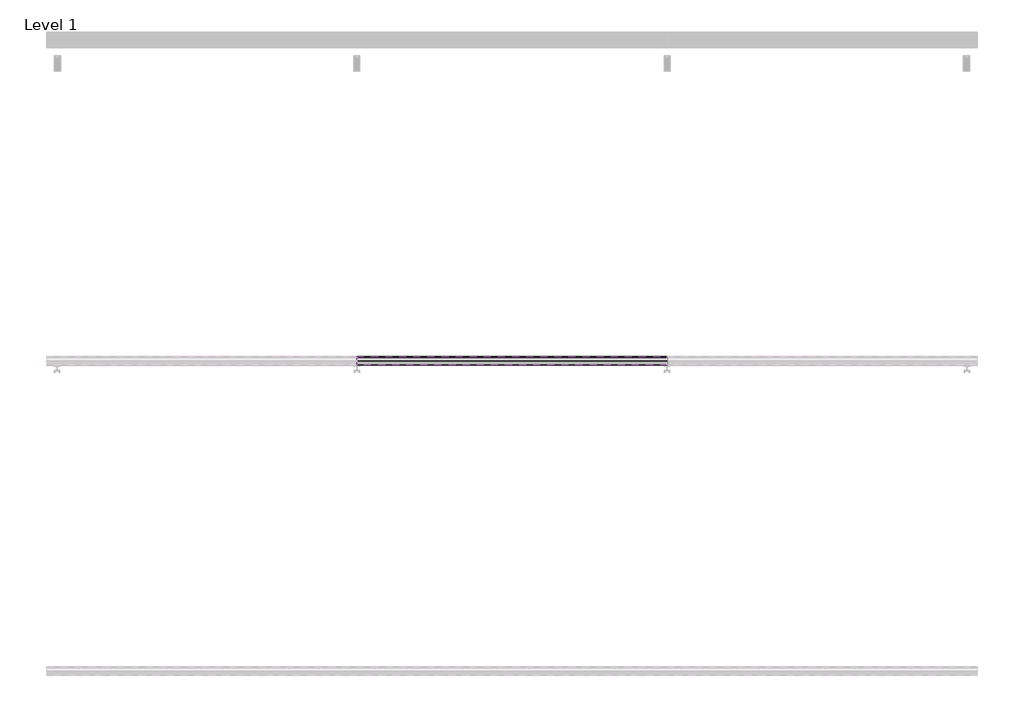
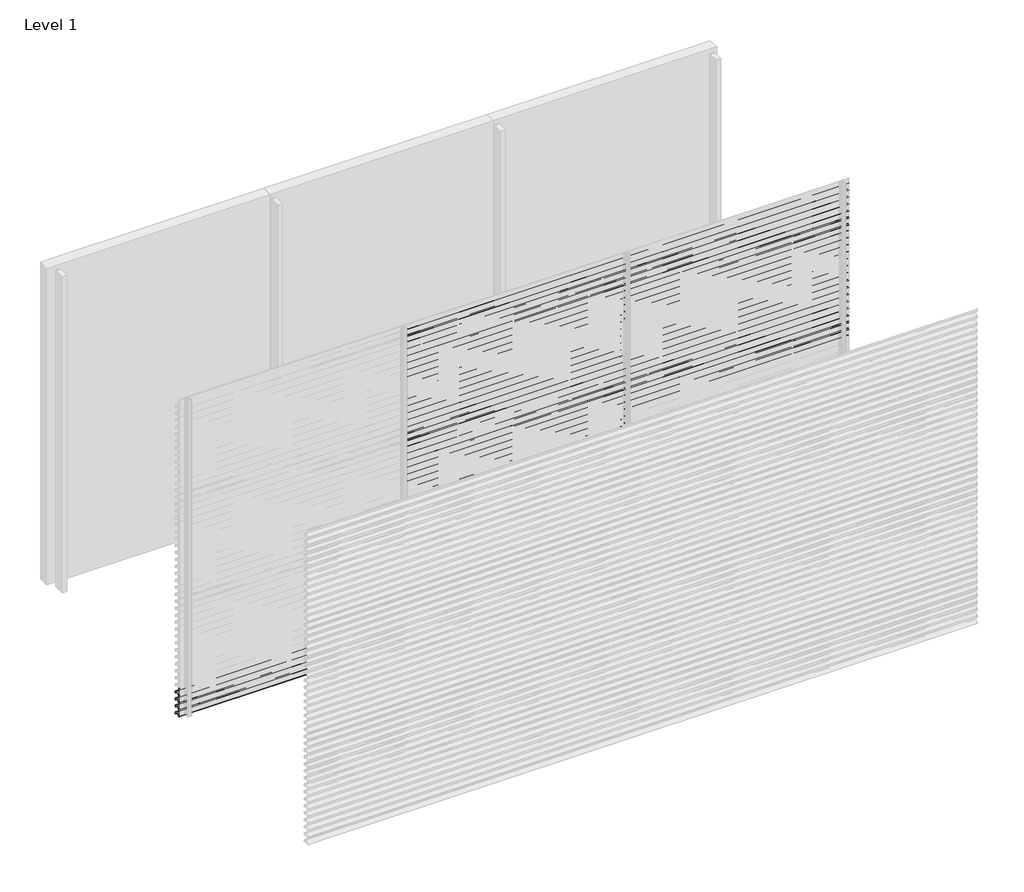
# One storey, part 9 of 27: 71 proxies.
"""IFC4 building model written with IfcOpenShell, lengths in millimetres."""

from ifc_helpers import new_model, si_unit, frame, origin, place, context, project, spatial, polyline, outline, extrude, element, save

model = new_model("IFC4")

# Units and contexts
model_context = context("Model", 3, world=origin())
ifc_project = project(units=[si_unit("LENGTHUNIT", "METRE", prefix="MILLI")], contexts=[model_context])

# Site, building, storey
site = spatial("IfcSite", under=ifc_project)
building = spatial("IfcBuilding", under=site)
storey = spatial("IfcBuildingStorey", under=building, Name="Level 1", Elevation=0.0)

# Proxies
placement = place(None, origin())
element("IfcBuildingElementProxy", 1, Name="Wall Sweeps", at=placement, inside=storey, context=model_context, shape_type="SweptSolid", body=[
    extrude(outline(polyline([(-41943.0, 207.2), (-41943.0, 187.5), (-41944.25, 188.5866084), (-41944.25, 206.4872415), (-41963.0322086, 219.6010889), (-41995.1332975, 187.5), (-41996.0525363, 188.4192388), (-41964.1148087, 220.3569665), (-41998.0, 244.0158044), (-41998.0, 264.0), (-41996.75, 264.0), (-41996.75, 244.7285629), (-41943.0, 207.2)])), frame((0.0, 0.0, 0.0), z_axis=(1.0, 0.0, 0.0), x_axis=(0.0, 1.0, 0.0)), (0.0, 0.0, 1.0), 2000.0),
])
element("IfcBuildingElementProxy", 2, Name="Wall Sweeps", at=placement, inside=storey, context=model_context, shape_type="SweptSolid", body=[
    extrude(outline(polyline([(-41943.0, 141.2), (-41943.0, 121.5), (-41944.25, 122.5866084), (-41944.25, 140.4872415), (-41963.0322086, 153.6010889), (-41995.1332975, 121.5), (-41996.0525363, 122.4192388), (-41964.1148087, 154.3569665), (-41998.0, 178.0158044), (-41998.0, 198.0), (-41996.75, 198.0), (-41996.75, 178.7285629), (-41943.0, 141.2)])), frame((0.0, 0.0, 0.0), z_axis=(1.0, 0.0, 0.0), x_axis=(0.0, 1.0, 0.0)), (0.0, 0.0, 1.0), 2000.0),
])
element("IfcBuildingElementProxy", 3, Name="Wall Sweeps", at=placement, inside=storey, context=model_context, shape_type="SweptSolid", body=[
    extrude(outline(polyline([(-41943.0, 75.2), (-41943.0, 55.5), (-41944.25, 56.5866084), (-41944.25, 74.4872415), (-41963.0322086, 87.6010889), (-41995.1332975, 55.5), (-41996.0525363, 56.4192388), (-41964.1148087, 88.3569665), (-41998.0, 112.0158044), (-41998.0, 132.0), (-41996.75, 132.0), (-41996.75, 112.7285629), (-41943.0, 75.2)])), frame((0.0, 0.0, 0.0), z_axis=(1.0, 0.0, 0.0), x_axis=(0.0, 1.0, 0.0)), (0.0, 0.0, 1.0), 2000.0),
])
element("IfcBuildingElementProxy", 4, Name="Wall Sweeps", at=placement, inside=storey, context=model_context, shape_type="SweptSolid", body=[
    extrude(outline(polyline([(-41943.0, 9.2), (-41943.0, -10.5), (-41944.25, -9.4133916), (-41944.25, 8.4872415), (-41963.0322086, 21.6010889), (-41995.1332975, -10.5), (-41996.0525363, -9.5807612), (-41964.1148087, 22.3569665), (-41998.0, 46.0158044), (-41998.0, 66.0), (-41996.75, 66.0), (-41996.75, 46.7285629), (-41943.0, 9.2)])), frame((0.0, 0.0, 0.0), z_axis=(1.0, 0.0, 0.0), x_axis=(0.0, 1.0, 0.0)), (0.0, 0.0, 1.0), 2000.0),
])
element("IfcBuildingElementProxy", 5, Name="Wall Sweeps", at=placement, inside=storey, context=model_context, shape_type="SweptSolid", body=[
    extrude(outline(polyline([(-41943.0, 2913.2), (-41943.0, 2893.5), (-41944.25, 2894.5866084), (-41944.25, 2912.4872415), (-41963.0322086, 2925.6010889), (-41995.1332975, 2893.5), (-41996.0525363, 2894.4192388), (-41964.1148087, 2926.3569665), (-41998.0, 2950.0158044), (-41998.0, 2970.0), (-41996.75, 2970.0), (-41996.75, 2950.7285629), (-41943.0, 2913.2)])), frame((2000.0, 0.0, 0.0), z_axis=(1.0, 0.0, 0.0), x_axis=(0.0, 1.0, 0.0)), (0.0, 0.0, 1.0), 2000.0),
])
element("IfcBuildingElementProxy", 6, Name="Wall Sweeps", at=placement, inside=storey, context=model_context, shape_type="SweptSolid", body=[
    extrude(outline(polyline([(-41943.0, 2847.2), (-41943.0, 2827.5), (-41944.25, 2828.5866084), (-41944.25, 2846.4872415), (-41963.0322086, 2859.6010889), (-41995.1332975, 2827.5), (-41996.0525363, 2828.4192388), (-41964.1148087, 2860.3569665), (-41998.0, 2884.0158044), (-41998.0, 2904.0), (-41996.75, 2904.0), (-41996.75, 2884.7285629), (-41943.0, 2847.2)])), frame((2000.0, 0.0, 0.0), z_axis=(1.0, 0.0, 0.0), x_axis=(0.0, 1.0, 0.0)), (0.0, 0.0, 1.0), 2000.0),
])
element("IfcBuildingElementProxy", 7, Name="Wall Sweeps", at=placement, inside=storey, context=model_context, shape_type="SweptSolid", body=[
    extrude(outline(polyline([(-41943.0, 2781.2), (-41943.0, 2761.5), (-41944.25, 2762.5866084), (-41944.25, 2780.4872415), (-41963.0322086, 2793.6010889), (-41995.1332975, 2761.5), (-41996.0525363, 2762.4192388), (-41964.1148087, 2794.3569665), (-41998.0, 2818.0158044), (-41998.0, 2838.0), (-41996.75, 2838.0), (-41996.75, 2818.7285629), (-41943.0, 2781.2)])), frame((2000.0, 0.0, 0.0), z_axis=(1.0, 0.0, 0.0), x_axis=(0.0, 1.0, 0.0)), (0.0, 0.0, 1.0), 2000.0),
])
element("IfcBuildingElementProxy", 8, Name="Wall Sweeps", at=placement, inside=storey, context=model_context, shape_type="SweptSolid", body=[
    extrude(outline(polyline([(-41943.0, 2715.2), (-41943.0, 2695.5), (-41944.25, 2696.5866084), (-41944.25, 2714.4872415), (-41963.0322086, 2727.6010889), (-41995.1332975, 2695.5), (-41996.0525363, 2696.4192388), (-41964.1148087, 2728.3569665), (-41998.0, 2752.0158044), (-41998.0, 2772.0), (-41996.75, 2772.0), (-41996.75, 2752.7285629), (-41943.0, 2715.2)])), frame((2000.0, 0.0, 0.0), z_axis=(1.0, 0.0, 0.0), x_axis=(0.0, 1.0, 0.0)), (0.0, 0.0, 1.0), 2000.0),
])
element("IfcBuildingElementProxy", 9, Name="Wall Sweeps", at=placement, inside=storey, context=model_context, shape_type="SweptSolid", body=[
    extrude(outline(polyline([(-41943.0, 2649.2), (-41943.0, 2629.5), (-41944.25, 2630.5866084), (-41944.25, 2648.4872415), (-41963.0322086, 2661.6010889), (-41995.1332975, 2629.5), (-41996.0525363, 2630.4192388), (-41964.1148087, 2662.3569665), (-41998.0, 2686.0158044), (-41998.0, 2706.0), (-41996.75, 2706.0), (-41996.75, 2686.7285629), (-41943.0, 2649.2)])), frame((2000.0, 0.0, 0.0), z_axis=(1.0, 0.0, 0.0), x_axis=(0.0, 1.0, 0.0)), (0.0, 0.0, 1.0), 2000.0),
])
element("IfcBuildingElementProxy", 10, Name="Wall Sweeps", at=placement, inside=storey, context=model_context, shape_type="SweptSolid", body=[
    extrude(outline(polyline([(-41943.0, 2583.2), (-41943.0, 2563.5), (-41944.25, 2564.5866084), (-41944.25, 2582.4872415), (-41963.0322086, 2595.6010889), (-41995.1332975, 2563.5), (-41996.0525363, 2564.4192388), (-41964.1148087, 2596.3569665), (-41998.0, 2620.0158044), (-41998.0, 2640.0), (-41996.75, 2640.0), (-41996.75, 2620.7285629), (-41943.0, 2583.2)])), frame((2000.0, 0.0, 0.0), z_axis=(1.0, 0.0, 0.0), x_axis=(0.0, 1.0, 0.0)), (0.0, 0.0, 1.0), 2000.0),
])
element("IfcBuildingElementProxy", 11, Name="Wall Sweeps", at=placement, inside=storey, context=model_context, shape_type="SweptSolid", body=[
    extrude(outline(polyline([(-41943.0, 2517.2), (-41943.0, 2497.5), (-41944.25, 2498.5866084), (-41944.25, 2516.4872415), (-41963.0322086, 2529.6010889), (-41995.1332975, 2497.5), (-41996.0525363, 2498.4192388), (-41964.1148087, 2530.3569665), (-41998.0, 2554.0158044), (-41998.0, 2574.0), (-41996.75, 2574.0), (-41996.75, 2554.7285629), (-41943.0, 2517.2)])), frame((2000.0, 0.0, 0.0), z_axis=(1.0, 0.0, 0.0), x_axis=(0.0, 1.0, 0.0)), (0.0, 0.0, 1.0), 2000.0),
])
element("IfcBuildingElementProxy", 12, Name="Wall Sweeps", at=placement, inside=storey, context=model_context, shape_type="SweptSolid", body=[
    extrude(outline(polyline([(-41943.0, 2451.2), (-41943.0, 2431.5), (-41944.25, 2432.5866084), (-41944.25, 2450.4872415), (-41963.0322086, 2463.6010889), (-41995.1332975, 2431.5), (-41996.0525363, 2432.4192388), (-41964.1148087, 2464.3569665), (-41998.0, 2488.0158044), (-41998.0, 2508.0), (-41996.75, 2508.0), (-41996.75, 2488.7285629), (-41943.0, 2451.2)])), frame((2000.0, 0.0, 0.0), z_axis=(1.0, 0.0, 0.0), x_axis=(0.0, 1.0, 0.0)), (0.0, 0.0, 1.0), 2000.0),
])
element("IfcBuildingElementProxy", 13, Name="Wall Sweeps", at=placement, inside=storey, context=model_context, shape_type="SweptSolid", body=[
    extrude(outline(polyline([(-41943.0, 2385.2), (-41943.0, 2365.5), (-41944.25, 2366.5866084), (-41944.25, 2384.4872415), (-41963.0322086, 2397.6010889), (-41995.1332975, 2365.5), (-41996.0525363, 2366.4192388), (-41964.1148087, 2398.3569665), (-41998.0, 2422.0158044), (-41998.0, 2442.0), (-41996.75, 2442.0), (-41996.75, 2422.7285629), (-41943.0, 2385.2)])), frame((2000.0, 0.0, 0.0), z_axis=(1.0, 0.0, 0.0), x_axis=(0.0, 1.0, 0.0)), (0.0, 0.0, 1.0), 2000.0),
])
element("IfcBuildingElementProxy", 14, Name="Wall Sweeps", at=placement, inside=storey, context=model_context, shape_type="SweptSolid", body=[
    extrude(outline(polyline([(-41943.0, 2319.2), (-41943.0, 2299.5), (-41944.25, 2300.5866084), (-41944.25, 2318.4872415), (-41963.0322086, 2331.6010889), (-41995.1332975, 2299.5), (-41996.0525363, 2300.4192388), (-41964.1148087, 2332.3569665), (-41998.0, 2356.0158044), (-41998.0, 2376.0), (-41996.75, 2376.0), (-41996.75, 2356.7285629), (-41943.0, 2319.2)])), frame((2000.0, 0.0, 0.0), z_axis=(1.0, 0.0, 0.0), x_axis=(0.0, 1.0, 0.0)), (0.0, 0.0, 1.0), 2000.0),
])
element("IfcBuildingElementProxy", 15, Name="Wall Sweeps", at=placement, inside=storey, context=model_context, shape_type="SweptSolid", body=[
    extrude(outline(polyline([(-41943.0, 2253.2), (-41943.0, 2233.5), (-41944.25, 2234.5866084), (-41944.25, 2252.4872415), (-41963.0322086, 2265.6010889), (-41995.1332975, 2233.5), (-41996.0525363, 2234.4192388), (-41964.1148087, 2266.3569665), (-41998.0, 2290.0158044), (-41998.0, 2310.0), (-41996.75, 2310.0), (-41996.75, 2290.7285629), (-41943.0, 2253.2)])), frame((2000.0, 0.0, 0.0), z_axis=(1.0, 0.0, 0.0), x_axis=(0.0, 1.0, 0.0)), (0.0, 0.0, 1.0), 2000.0),
])
element("IfcBuildingElementProxy", 16, Name="Wall Sweeps", at=placement, inside=storey, context=model_context, shape_type="SweptSolid", body=[
    extrude(outline(polyline([(-41943.0, 2187.2), (-41943.0, 2167.5), (-41944.25, 2168.5866084), (-41944.25, 2186.4872415), (-41963.0322086, 2199.6010889), (-41995.1332975, 2167.5), (-41996.0525363, 2168.4192388), (-41964.1148087, 2200.3569665), (-41998.0, 2224.0158044), (-41998.0, 2244.0), (-41996.75, 2244.0), (-41996.75, 2224.7285629), (-41943.0, 2187.2)])), frame((2000.0, 0.0, 0.0), z_axis=(1.0, 0.0, 0.0), x_axis=(0.0, 1.0, 0.0)), (0.0, 0.0, 1.0), 2000.0),
])
element("IfcBuildingElementProxy", 17, Name="Wall Sweeps", at=placement, inside=storey, context=model_context, shape_type="SweptSolid", body=[
    extrude(outline(polyline([(-41943.0, 2121.2), (-41943.0, 2101.5), (-41944.25, 2102.5866084), (-41944.25, 2120.4872415), (-41963.0322086, 2133.6010889), (-41995.1332975, 2101.5), (-41996.0525363, 2102.4192388), (-41964.1148087, 2134.3569665), (-41998.0, 2158.0158044), (-41998.0, 2178.0), (-41996.75, 2178.0), (-41996.75, 2158.7285629), (-41943.0, 2121.2)])), frame((2000.0, 0.0, 0.0), z_axis=(1.0, 0.0, 0.0), x_axis=(0.0, 1.0, 0.0)), (0.0, 0.0, 1.0), 2000.0),
])
element("IfcBuildingElementProxy", 18, Name="Wall Sweeps", at=placement, inside=storey, context=model_context, shape_type="SweptSolid", body=[
    extrude(outline(polyline([(-41943.0, 2055.2), (-41943.0, 2035.5), (-41944.25, 2036.5866084), (-41944.25, 2054.4872415), (-41963.0322086, 2067.6010889), (-41995.1332975, 2035.5), (-41996.0525363, 2036.4192388), (-41964.1148087, 2068.3569665), (-41998.0, 2092.0158044), (-41998.0, 2112.0), (-41996.75, 2112.0), (-41996.75, 2092.7285629), (-41943.0, 2055.2)])), frame((2000.0, 0.0, 0.0), z_axis=(1.0, 0.0, 0.0), x_axis=(0.0, 1.0, 0.0)), (0.0, 0.0, 1.0), 2000.0),
])
element("IfcBuildingElementProxy", 19, Name="Wall Sweeps", at=placement, inside=storey, context=model_context, shape_type="SweptSolid", body=[
    extrude(outline(polyline([(-41943.0, 1989.2), (-41943.0, 1969.5), (-41944.25, 1970.5866084), (-41944.25, 1988.4872415), (-41963.0322086, 2001.6010889), (-41995.1332975, 1969.5), (-41996.0525363, 1970.4192388), (-41964.1148087, 2002.3569665), (-41998.0, 2026.0158044), (-41998.0, 2046.0), (-41996.75, 2046.0), (-41996.75, 2026.7285629), (-41943.0, 1989.2)])), frame((2000.0, 0.0, 0.0), z_axis=(1.0, 0.0, 0.0), x_axis=(0.0, 1.0, 0.0)), (0.0, 0.0, 1.0), 2000.0),
])
element("IfcBuildingElementProxy", 20, Name="Wall Sweeps", at=placement, inside=storey, context=model_context, shape_type="SweptSolid", body=[
    extrude(outline(polyline([(-41943.0, 1923.2), (-41943.0, 1903.5), (-41944.25, 1904.5866084), (-41944.25, 1922.4872415), (-41963.0322086, 1935.6010889), (-41995.1332975, 1903.5), (-41996.0525363, 1904.4192388), (-41964.1148087, 1936.3569665), (-41998.0, 1960.0158044), (-41998.0, 1980.0), (-41996.75, 1980.0), (-41996.75, 1960.7285629), (-41943.0, 1923.2)])), frame((2000.0, 0.0, 0.0), z_axis=(1.0, 0.0, 0.0), x_axis=(0.0, 1.0, 0.0)), (0.0, 0.0, 1.0), 2000.0),
])
element("IfcBuildingElementProxy", 21, Name="Wall Sweeps", at=placement, inside=storey, context=model_context, shape_type="SweptSolid", body=[
    extrude(outline(polyline([(-41943.0, 1857.2), (-41943.0, 1837.5), (-41944.25, 1838.5866084), (-41944.25, 1856.4872415), (-41963.0322086, 1869.6010889), (-41995.1332975, 1837.5), (-41996.0525363, 1838.4192388), (-41964.1148087, 1870.3569665), (-41998.0, 1894.0158044), (-41998.0, 1914.0), (-41996.75, 1914.0), (-41996.75, 1894.7285629), (-41943.0, 1857.2)])), frame((2000.0, 0.0, 0.0), z_axis=(1.0, 0.0, 0.0), x_axis=(0.0, 1.0, 0.0)), (0.0, 0.0, 1.0), 2000.0),
])
element("IfcBuildingElementProxy", 22, Name="Wall Sweeps", at=placement, inside=storey, context=model_context, shape_type="SweptSolid", body=[
    extrude(outline(polyline([(-41943.0, 1791.2), (-41943.0, 1771.5), (-41944.25, 1772.5866084), (-41944.25, 1790.4872415), (-41963.0322086, 1803.6010889), (-41995.1332975, 1771.5), (-41996.0525363, 1772.4192388), (-41964.1148087, 1804.3569665), (-41998.0, 1828.0158044), (-41998.0, 1848.0), (-41996.75, 1848.0), (-41996.75, 1828.7285629), (-41943.0, 1791.2)])), frame((2000.0, 0.0, 0.0), z_axis=(1.0, 0.0, 0.0), x_axis=(0.0, 1.0, 0.0)), (0.0, 0.0, 1.0), 2000.0),
])
element("IfcBuildingElementProxy", 23, Name="Wall Sweeps", at=placement, inside=storey, context=model_context, shape_type="SweptSolid", body=[
    extrude(outline(polyline([(-41943.0, 1725.2), (-41943.0, 1705.5), (-41944.25, 1706.5866084), (-41944.25, 1724.4872415), (-41963.0322086, 1737.6010889), (-41995.1332975, 1705.5), (-41996.0525363, 1706.4192388), (-41964.1148087, 1738.3569665), (-41998.0, 1762.0158044), (-41998.0, 1782.0), (-41996.75, 1782.0), (-41996.75, 1762.7285629), (-41943.0, 1725.2)])), frame((2000.0, 0.0, 0.0), z_axis=(1.0, 0.0, 0.0), x_axis=(0.0, 1.0, 0.0)), (0.0, 0.0, 1.0), 2000.0),
])
element("IfcBuildingElementProxy", 24, Name="Wall Sweeps", at=placement, inside=storey, context=model_context, shape_type="SweptSolid", body=[
    extrude(outline(polyline([(-41943.0, 1659.2), (-41943.0, 1639.5), (-41944.25, 1640.5866084), (-41944.25, 1658.4872415), (-41963.0322086, 1671.6010889), (-41995.1332975, 1639.5), (-41996.0525363, 1640.4192388), (-41964.1148087, 1672.3569665), (-41998.0, 1696.0158044), (-41998.0, 1716.0), (-41996.75, 1716.0), (-41996.75, 1696.7285629), (-41943.0, 1659.2)])), frame((2000.0, 0.0, 0.0), z_axis=(1.0, 0.0, 0.0), x_axis=(0.0, 1.0, 0.0)), (0.0, 0.0, 1.0), 2000.0),
])
element("IfcBuildingElementProxy", 25, Name="Wall Sweeps", at=placement, inside=storey, context=model_context, shape_type="SweptSolid", body=[
    extrude(outline(polyline([(-41943.0, 1593.2), (-41943.0, 1573.5), (-41944.25, 1574.5866084), (-41944.25, 1592.4872415), (-41963.0322086, 1605.6010889), (-41995.1332975, 1573.5), (-41996.0525363, 1574.4192388), (-41964.1148087, 1606.3569665), (-41998.0, 1630.0158044), (-41998.0, 1650.0), (-41996.75, 1650.0), (-41996.75, 1630.7285629), (-41943.0, 1593.2)])), frame((2000.0, 0.0, 0.0), z_axis=(1.0, 0.0, 0.0), x_axis=(0.0, 1.0, 0.0)), (0.0, 0.0, 1.0), 2000.0),
])
element("IfcBuildingElementProxy", 26, Name="Wall Sweeps", at=placement, inside=storey, context=model_context, shape_type="SweptSolid", body=[
    extrude(outline(polyline([(-41943.0, 1527.2), (-41943.0, 1507.5), (-41944.25, 1508.5866084), (-41944.25, 1526.4872415), (-41963.0322086, 1539.6010889), (-41995.1332975, 1507.5), (-41996.0525363, 1508.4192388), (-41964.1148087, 1540.3569665), (-41998.0, 1564.0158044), (-41998.0, 1584.0), (-41996.75, 1584.0), (-41996.75, 1564.7285629), (-41943.0, 1527.2)])), frame((2000.0, 0.0, 0.0), z_axis=(1.0, 0.0, 0.0), x_axis=(0.0, 1.0, 0.0)), (0.0, 0.0, 1.0), 2000.0),
])
element("IfcBuildingElementProxy", 27, Name="Wall Sweeps", at=placement, inside=storey, context=model_context, shape_type="SweptSolid", body=[
    extrude(outline(polyline([(-41943.0, 1461.2), (-41943.0, 1441.5), (-41944.25, 1442.5866084), (-41944.25, 1460.4872415), (-41963.0322086, 1473.6010889), (-41995.1332975, 1441.5), (-41996.0525363, 1442.4192388), (-41964.1148087, 1474.3569665), (-41998.0, 1498.0158044), (-41998.0, 1518.0), (-41996.75, 1518.0), (-41996.75, 1498.7285629), (-41943.0, 1461.2)])), frame((2000.0, 0.0, 0.0), z_axis=(1.0, 0.0, 0.0), x_axis=(0.0, 1.0, 0.0)), (0.0, 0.0, 1.0), 2000.0),
])
element("IfcBuildingElementProxy", 28, Name="Wall Sweeps", at=placement, inside=storey, context=model_context, shape_type="SweptSolid", body=[
    extrude(outline(polyline([(-41943.0, 1395.2), (-41943.0, 1375.5), (-41944.25, 1376.5866084), (-41944.25, 1394.4872415), (-41963.0322086, 1407.6010889), (-41995.1332975, 1375.5), (-41996.0525363, 1376.4192388), (-41964.1148087, 1408.3569665), (-41998.0, 1432.0158044), (-41998.0, 1452.0), (-41996.75, 1452.0), (-41996.75, 1432.7285629), (-41943.0, 1395.2)])), frame((2000.0, 0.0, 0.0), z_axis=(1.0, 0.0, 0.0), x_axis=(0.0, 1.0, 0.0)), (0.0, 0.0, 1.0), 2000.0),
])
element("IfcBuildingElementProxy", 29, Name="Wall Sweeps", at=placement, inside=storey, context=model_context, shape_type="SweptSolid", body=[
    extrude(outline(polyline([(-41943.0, 1329.2), (-41943.0, 1309.5), (-41944.25, 1310.5866084), (-41944.25, 1328.4872415), (-41963.0322086, 1341.6010889), (-41995.1332975, 1309.5), (-41996.0525363, 1310.4192388), (-41964.1148087, 1342.3569665), (-41998.0, 1366.0158044), (-41998.0, 1386.0), (-41996.75, 1386.0), (-41996.75, 1366.7285629), (-41943.0, 1329.2)])), frame((2000.0, 0.0, 0.0), z_axis=(1.0, 0.0, 0.0), x_axis=(0.0, 1.0, 0.0)), (0.0, 0.0, 1.0), 2000.0),
])
element("IfcBuildingElementProxy", 30, Name="Wall Sweeps", at=placement, inside=storey, context=model_context, shape_type="SweptSolid", body=[
    extrude(outline(polyline([(-41943.0, 1263.2), (-41943.0, 1243.5), (-41944.25, 1244.5866084), (-41944.25, 1262.4872415), (-41963.0322086, 1275.6010889), (-41995.1332975, 1243.5), (-41996.0525363, 1244.4192388), (-41964.1148087, 1276.3569665), (-41998.0, 1300.0158044), (-41998.0, 1320.0), (-41996.75, 1320.0), (-41996.75, 1300.7285629), (-41943.0, 1263.2)])), frame((2000.0, 0.0, 0.0), z_axis=(1.0, 0.0, 0.0), x_axis=(0.0, 1.0, 0.0)), (0.0, 0.0, 1.0), 2000.0),
])
element("IfcBuildingElementProxy", 31, Name="Wall Sweeps", at=placement, inside=storey, context=model_context, shape_type="SweptSolid", body=[
    extrude(outline(polyline([(-41943.0, 1197.2), (-41943.0, 1177.5), (-41944.25, 1178.5866084), (-41944.25, 1196.4872415), (-41963.0322086, 1209.6010889), (-41995.1332975, 1177.5), (-41996.0525363, 1178.4192388), (-41964.1148087, 1210.3569665), (-41998.0, 1234.0158044), (-41998.0, 1254.0), (-41996.75, 1254.0), (-41996.75, 1234.7285629), (-41943.0, 1197.2)])), frame((2000.0, 0.0, 0.0), z_axis=(1.0, 0.0, 0.0), x_axis=(0.0, 1.0, 0.0)), (0.0, 0.0, 1.0), 2000.0),
])
element("IfcBuildingElementProxy", 32, Name="Wall Sweeps", at=placement, inside=storey, context=model_context, shape_type="SweptSolid", body=[
    extrude(outline(polyline([(-41943.0, 1131.2), (-41943.0, 1111.5), (-41944.25, 1112.5866084), (-41944.25, 1130.4872415), (-41963.0322086, 1143.6010889), (-41995.1332975, 1111.5), (-41996.0525363, 1112.4192388), (-41964.1148087, 1144.3569665), (-41998.0, 1168.0158044), (-41998.0, 1188.0), (-41996.75, 1188.0), (-41996.75, 1168.7285629), (-41943.0, 1131.2)])), frame((2000.0, 0.0, 0.0), z_axis=(1.0, 0.0, 0.0), x_axis=(0.0, 1.0, 0.0)), (0.0, 0.0, 1.0), 2000.0),
])
element("IfcBuildingElementProxy", 33, Name="Wall Sweeps", at=placement, inside=storey, context=model_context, shape_type="SweptSolid", body=[
    extrude(outline(polyline([(-41943.0, 1065.2), (-41943.0, 1045.5), (-41944.25, 1046.5866084), (-41944.25, 1064.4872415), (-41963.0322086, 1077.6010889), (-41995.1332975, 1045.5), (-41996.0525363, 1046.4192388), (-41964.1148087, 1078.3569665), (-41998.0, 1102.0158044), (-41998.0, 1122.0), (-41996.75, 1122.0), (-41996.75, 1102.7285629), (-41943.0, 1065.2)])), frame((2000.0, 0.0, 0.0), z_axis=(1.0, 0.0, 0.0), x_axis=(0.0, 1.0, 0.0)), (0.0, 0.0, 1.0), 2000.0),
])
element("IfcBuildingElementProxy", 34, Name="Wall Sweeps", at=placement, inside=storey, context=model_context, shape_type="SweptSolid", body=[
    extrude(outline(polyline([(-41943.0, 999.2), (-41943.0, 979.5), (-41944.25, 980.5866084), (-41944.25, 998.4872415), (-41963.0322086, 1011.6010889), (-41995.1332975, 979.5), (-41996.0525363, 980.4192388), (-41964.1148087, 1012.3569665), (-41998.0, 1036.0158044), (-41998.0, 1056.0), (-41996.75, 1056.0), (-41996.75, 1036.7285629), (-41943.0, 999.2)])), frame((2000.0, 0.0, 0.0), z_axis=(1.0, 0.0, 0.0), x_axis=(0.0, 1.0, 0.0)), (0.0, 0.0, 1.0), 2000.0),
])
element("IfcBuildingElementProxy", 35, Name="Wall Sweeps", at=placement, inside=storey, context=model_context, shape_type="SweptSolid", body=[
    extrude(outline(polyline([(-41943.0, 933.2), (-41943.0, 913.5), (-41944.25, 914.5866084), (-41944.25, 932.4872415), (-41963.0322086, 945.6010889), (-41995.1332975, 913.5), (-41996.0525363, 914.4192388), (-41964.1148087, 946.3569665), (-41998.0, 970.0158044), (-41998.0, 990.0), (-41996.75, 990.0), (-41996.75, 970.7285629), (-41943.0, 933.2)])), frame((2000.0, 0.0, 0.0), z_axis=(1.0, 0.0, 0.0), x_axis=(0.0, 1.0, 0.0)), (0.0, 0.0, 1.0), 2000.0),
])
element("IfcBuildingElementProxy", 36, Name="Wall Sweeps", at=placement, inside=storey, context=model_context, shape_type="SweptSolid", body=[
    extrude(outline(polyline([(-41943.0, 867.2), (-41943.0, 847.5), (-41944.25, 848.5866084), (-41944.25, 866.4872415), (-41963.0322086, 879.6010889), (-41995.1332975, 847.5), (-41996.0525363, 848.4192388), (-41964.1148087, 880.3569665), (-41998.0, 904.0158044), (-41998.0, 924.0), (-41996.75, 924.0), (-41996.75, 904.7285629), (-41943.0, 867.2)])), frame((2000.0, 0.0, 0.0), z_axis=(1.0, 0.0, 0.0), x_axis=(0.0, 1.0, 0.0)), (0.0, 0.0, 1.0), 2000.0),
])
element("IfcBuildingElementProxy", 37, Name="Wall Sweeps", at=placement, inside=storey, context=model_context, shape_type="SweptSolid", body=[
    extrude(outline(polyline([(-41943.0, 801.2), (-41943.0, 781.5), (-41944.25, 782.5866084), (-41944.25, 800.4872415), (-41963.0322086, 813.6010889), (-41995.1332975, 781.5), (-41996.0525363, 782.4192388), (-41964.1148087, 814.3569665), (-41998.0, 838.0158044), (-41998.0, 858.0), (-41996.75, 858.0), (-41996.75, 838.7285629), (-41943.0, 801.2)])), frame((2000.0, 0.0, 0.0), z_axis=(1.0, 0.0, 0.0), x_axis=(0.0, 1.0, 0.0)), (0.0, 0.0, 1.0), 2000.0),
])
element("IfcBuildingElementProxy", 38, Name="Wall Sweeps", at=placement, inside=storey, context=model_context, shape_type="SweptSolid", body=[
    extrude(outline(polyline([(-41943.0, 735.2), (-41943.0, 715.5), (-41944.25, 716.5866084), (-41944.25, 734.4872415), (-41963.0322086, 747.6010889), (-41995.1332975, 715.5), (-41996.0525363, 716.4192388), (-41964.1148087, 748.3569665), (-41998.0, 772.0158044), (-41998.0, 792.0), (-41996.75, 792.0), (-41996.75, 772.7285629), (-41943.0, 735.2)])), frame((2000.0, 0.0, 0.0), z_axis=(1.0, 0.0, 0.0), x_axis=(0.0, 1.0, 0.0)), (0.0, 0.0, 1.0), 2000.0),
])
element("IfcBuildingElementProxy", 39, Name="Wall Sweeps", at=placement, inside=storey, context=model_context, shape_type="SweptSolid", body=[
    extrude(outline(polyline([(-41943.0, 669.2), (-41943.0, 649.5), (-41944.25, 650.5866084), (-41944.25, 668.4872415), (-41963.0322086, 681.6010889), (-41995.1332975, 649.5), (-41996.0525363, 650.4192388), (-41964.1148087, 682.3569665), (-41998.0, 706.0158044), (-41998.0, 726.0), (-41996.75, 726.0), (-41996.75, 706.7285629), (-41943.0, 669.2)])), frame((2000.0, 0.0, 0.0), z_axis=(1.0, 0.0, 0.0), x_axis=(0.0, 1.0, 0.0)), (0.0, 0.0, 1.0), 2000.0),
])
element("IfcBuildingElementProxy", 40, Name="Wall Sweeps", at=placement, inside=storey, context=model_context, shape_type="SweptSolid", body=[
    extrude(outline(polyline([(-41943.0, 603.2), (-41943.0, 583.5), (-41944.25, 584.5866084), (-41944.25, 602.4872415), (-41963.0322086, 615.6010889), (-41995.1332975, 583.5), (-41996.0525363, 584.4192388), (-41964.1148087, 616.3569665), (-41998.0, 640.0158044), (-41998.0, 660.0), (-41996.75, 660.0), (-41996.75, 640.7285629), (-41943.0, 603.2)])), frame((2000.0, 0.0, 0.0), z_axis=(1.0, 0.0, 0.0), x_axis=(0.0, 1.0, 0.0)), (0.0, 0.0, 1.0), 2000.0),
])
element("IfcBuildingElementProxy", 41, Name="Wall Sweeps", at=placement, inside=storey, context=model_context, shape_type="SweptSolid", body=[
    extrude(outline(polyline([(-41943.0, 537.2), (-41943.0, 517.5), (-41944.25, 518.5866084), (-41944.25, 536.4872415), (-41963.0322086, 549.6010889), (-41995.1332975, 517.5), (-41996.0525363, 518.4192388), (-41964.1148087, 550.3569665), (-41998.0, 574.0158044), (-41998.0, 594.0), (-41996.75, 594.0), (-41996.75, 574.7285629), (-41943.0, 537.2)])), frame((2000.0, 0.0, 0.0), z_axis=(1.0, 0.0, 0.0), x_axis=(0.0, 1.0, 0.0)), (0.0, 0.0, 1.0), 2000.0),
])
element("IfcBuildingElementProxy", 42, Name="Wall Sweeps", at=placement, inside=storey, context=model_context, shape_type="SweptSolid", body=[
    extrude(outline(polyline([(-41943.0, 471.2), (-41943.0, 451.5), (-41944.25, 452.5866084), (-41944.25, 470.4872415), (-41963.0322086, 483.6010889), (-41995.1332975, 451.5), (-41996.0525363, 452.4192388), (-41964.1148087, 484.3569665), (-41998.0, 508.0158044), (-41998.0, 528.0), (-41996.75, 528.0), (-41996.75, 508.7285629), (-41943.0, 471.2)])), frame((2000.0, 0.0, 0.0), z_axis=(1.0, 0.0, 0.0), x_axis=(0.0, 1.0, 0.0)), (0.0, 0.0, 1.0), 2000.0),
])
element("IfcBuildingElementProxy", 43, Name="Wall Sweeps", at=placement, inside=storey, context=model_context, shape_type="SweptSolid", body=[
    extrude(outline(polyline([(-41943.0, 405.2), (-41943.0, 385.5), (-41944.25, 386.5866084), (-41944.25, 404.4872415), (-41963.0322086, 417.6010889), (-41995.1332975, 385.5), (-41996.0525363, 386.4192388), (-41964.1148087, 418.3569665), (-41998.0, 442.0158044), (-41998.0, 462.0), (-41996.75, 462.0), (-41996.75, 442.7285629), (-41943.0, 405.2)])), frame((2000.0, 0.0, 0.0), z_axis=(1.0, 0.0, 0.0), x_axis=(0.0, 1.0, 0.0)), (0.0, 0.0, 1.0), 2000.0),
])
element("IfcBuildingElementProxy", 44, Name="Wall Sweeps", at=placement, inside=storey, context=model_context, shape_type="SweptSolid", body=[
    extrude(outline(polyline([(-41943.0, 339.2), (-41943.0, 319.5), (-41944.25, 320.5866084), (-41944.25, 338.4872415), (-41963.0322086, 351.6010889), (-41995.1332975, 319.5), (-41996.0525363, 320.4192388), (-41964.1148087, 352.3569665), (-41998.0, 376.0158044), (-41998.0, 396.0), (-41996.75, 396.0), (-41996.75, 376.7285629), (-41943.0, 339.2)])), frame((2000.0, 0.0, 0.0), z_axis=(1.0, 0.0, 0.0), x_axis=(0.0, 1.0, 0.0)), (0.0, 0.0, 1.0), 2000.0),
])
element("IfcBuildingElementProxy", 45, Name="Wall Sweeps", at=placement, inside=storey, context=model_context, shape_type="SweptSolid", body=[
    extrude(outline(polyline([(-41943.0, 273.2), (-41943.0, 253.5), (-41944.25, 254.5866084), (-41944.25, 272.4872415), (-41963.0322086, 285.6010889), (-41995.1332975, 253.5), (-41996.0525363, 254.4192388), (-41964.1148087, 286.3569665), (-41998.0, 310.0158044), (-41998.0, 330.0), (-41996.75, 330.0), (-41996.75, 310.7285629), (-41943.0, 273.2)])), frame((2000.0, 0.0, 0.0), z_axis=(1.0, 0.0, 0.0), x_axis=(0.0, 1.0, 0.0)), (0.0, 0.0, 1.0), 2000.0),
])
element("IfcBuildingElementProxy", 46, Name="Wall Sweeps", at=placement, inside=storey, context=model_context, shape_type="SweptSolid", body=[
    extrude(outline(polyline([(-41943.0, 207.2), (-41943.0, 187.5), (-41944.25, 188.5866084), (-41944.25, 206.4872415), (-41963.0322086, 219.6010889), (-41995.1332975, 187.5), (-41996.0525363, 188.4192388), (-41964.1148087, 220.3569665), (-41998.0, 244.0158044), (-41998.0, 264.0), (-41996.75, 264.0), (-41996.75, 244.7285629), (-41943.0, 207.2)])), frame((2000.0, 0.0, 0.0), z_axis=(1.0, 0.0, 0.0), x_axis=(0.0, 1.0, 0.0)), (0.0, 0.0, 1.0), 2000.0),
])
element("IfcBuildingElementProxy", 47, Name="Wall Sweeps", at=placement, inside=storey, context=model_context, shape_type="SweptSolid", body=[
    extrude(outline(polyline([(-41943.0, 141.2), (-41943.0, 121.5), (-41944.25, 122.5866084), (-41944.25, 140.4872415), (-41963.0322086, 153.6010889), (-41995.1332975, 121.5), (-41996.0525363, 122.4192388), (-41964.1148087, 154.3569665), (-41998.0, 178.0158044), (-41998.0, 198.0), (-41996.75, 198.0), (-41996.75, 178.7285629), (-41943.0, 141.2)])), frame((2000.0, 0.0, 0.0), z_axis=(1.0, 0.0, 0.0), x_axis=(0.0, 1.0, 0.0)), (0.0, 0.0, 1.0), 2000.0),
])
element("IfcBuildingElementProxy", 48, Name="Wall Sweeps", at=placement, inside=storey, context=model_context, shape_type="SweptSolid", body=[
    extrude(outline(polyline([(-41943.0, 75.2), (-41943.0, 55.5), (-41944.25, 56.5866084), (-41944.25, 74.4872415), (-41963.0322086, 87.6010889), (-41995.1332975, 55.5), (-41996.0525363, 56.4192388), (-41964.1148087, 88.3569665), (-41998.0, 112.0158044), (-41998.0, 132.0), (-41996.75, 132.0), (-41996.75, 112.7285629), (-41943.0, 75.2)])), frame((2000.0, 0.0, 0.0), z_axis=(1.0, 0.0, 0.0), x_axis=(0.0, 1.0, 0.0)), (0.0, 0.0, 1.0), 2000.0),
])
element("IfcBuildingElementProxy", 49, Name="Wall Sweeps", at=placement, inside=storey, context=model_context, shape_type="SweptSolid", body=[
    extrude(outline(polyline([(-41943.0, 9.2), (-41943.0, -10.5), (-41944.25, -9.4133916), (-41944.25, 8.4872415), (-41963.0322086, 21.6010889), (-41995.1332975, -10.5), (-41996.0525363, -9.5807612), (-41964.1148087, 22.3569665), (-41998.0, 46.0158044), (-41998.0, 66.0), (-41996.75, 66.0), (-41996.75, 46.7285629), (-41943.0, 9.2)])), frame((2000.0, 0.0, 0.0), z_axis=(1.0, 0.0, 0.0), x_axis=(0.0, 1.0, 0.0)), (0.0, 0.0, 1.0), 2000.0),
])
element("IfcBuildingElementProxy", 50, Name="Wall Sweeps", at=placement, inside=storey, context=model_context, shape_type="SweptSolid", body=[
    extrude(outline(polyline([(-41943.0, 2913.2), (-41943.0, 2893.5), (-41944.25, 2894.5866084), (-41944.25, 2912.4872415), (-41963.0322086, 2925.6010889), (-41995.1332975, 2893.5), (-41996.0525363, 2894.4192388), (-41964.1148087, 2926.3569665), (-41998.0, 2950.0158044), (-41998.0, 2970.0), (-41996.75, 2970.0), (-41996.75, 2950.7285629), (-41943.0, 2913.2)])), frame((4000.0, 0.0, 0.0), z_axis=(1.0, 0.0, 0.0), x_axis=(0.0, 1.0, 0.0)), (0.0, 0.0, 1.0), 2000.0),
])
element("IfcBuildingElementProxy", 51, Name="Wall Sweeps", at=placement, inside=storey, context=model_context, shape_type="SweptSolid", body=[
    extrude(outline(polyline([(-41943.0, 2847.2), (-41943.0, 2827.5), (-41944.25, 2828.5866084), (-41944.25, 2846.4872415), (-41963.0322086, 2859.6010889), (-41995.1332975, 2827.5), (-41996.0525363, 2828.4192388), (-41964.1148087, 2860.3569665), (-41998.0, 2884.0158044), (-41998.0, 2904.0), (-41996.75, 2904.0), (-41996.75, 2884.7285629), (-41943.0, 2847.2)])), frame((4000.0, 0.0, 0.0), z_axis=(1.0, 0.0, 0.0), x_axis=(0.0, 1.0, 0.0)), (0.0, 0.0, 1.0), 2000.0),
])
element("IfcBuildingElementProxy", 52, Name="Wall Sweeps", at=placement, inside=storey, context=model_context, shape_type="SweptSolid", body=[
    extrude(outline(polyline([(-41943.0, 2781.2), (-41943.0, 2761.5), (-41944.25, 2762.5866084), (-41944.25, 2780.4872415), (-41963.0322086, 2793.6010889), (-41995.1332975, 2761.5), (-41996.0525363, 2762.4192388), (-41964.1148087, 2794.3569665), (-41998.0, 2818.0158044), (-41998.0, 2838.0), (-41996.75, 2838.0), (-41996.75, 2818.7285629), (-41943.0, 2781.2)])), frame((4000.0, 0.0, 0.0), z_axis=(1.0, 0.0, 0.0), x_axis=(0.0, 1.0, 0.0)), (0.0, 0.0, 1.0), 2000.0),
])
element("IfcBuildingElementProxy", 53, Name="Wall Sweeps", at=placement, inside=storey, context=model_context, shape_type="SweptSolid", body=[
    extrude(outline(polyline([(-41943.0, 2715.2), (-41943.0, 2695.5), (-41944.25, 2696.5866084), (-41944.25, 2714.4872415), (-41963.0322086, 2727.6010889), (-41995.1332975, 2695.5), (-41996.0525363, 2696.4192388), (-41964.1148087, 2728.3569665), (-41998.0, 2752.0158044), (-41998.0, 2772.0), (-41996.75, 2772.0), (-41996.75, 2752.7285629), (-41943.0, 2715.2)])), frame((4000.0, 0.0, 0.0), z_axis=(1.0, 0.0, 0.0), x_axis=(0.0, 1.0, 0.0)), (0.0, 0.0, 1.0), 2000.0),
])
element("IfcBuildingElementProxy", 54, Name="Wall Sweeps", at=placement, inside=storey, context=model_context, shape_type="SweptSolid", body=[
    extrude(outline(polyline([(-41943.0, 2649.2), (-41943.0, 2629.5), (-41944.25, 2630.5866084), (-41944.25, 2648.4872415), (-41963.0322086, 2661.6010889), (-41995.1332975, 2629.5), (-41996.0525363, 2630.4192388), (-41964.1148087, 2662.3569665), (-41998.0, 2686.0158044), (-41998.0, 2706.0), (-41996.75, 2706.0), (-41996.75, 2686.7285629), (-41943.0, 2649.2)])), frame((4000.0, 0.0, 0.0), z_axis=(1.0, 0.0, 0.0), x_axis=(0.0, 1.0, 0.0)), (0.0, 0.0, 1.0), 2000.0),
])
element("IfcBuildingElementProxy", 55, Name="Wall Sweeps", at=placement, inside=storey, context=model_context, shape_type="SweptSolid", body=[
    extrude(outline(polyline([(-41943.0, 2583.2), (-41943.0, 2563.5), (-41944.25, 2564.5866084), (-41944.25, 2582.4872415), (-41963.0322086, 2595.6010889), (-41995.1332975, 2563.5), (-41996.0525363, 2564.4192388), (-41964.1148087, 2596.3569665), (-41998.0, 2620.0158044), (-41998.0, 2640.0), (-41996.75, 2640.0), (-41996.75, 2620.7285629), (-41943.0, 2583.2)])), frame((4000.0, 0.0, 0.0), z_axis=(1.0, 0.0, 0.0), x_axis=(0.0, 1.0, 0.0)), (0.0, 0.0, 1.0), 2000.0),
])
element("IfcBuildingElementProxy", 56, Name="Wall Sweeps", at=placement, inside=storey, context=model_context, shape_type="SweptSolid", body=[
    extrude(outline(polyline([(-41943.0, 2517.2), (-41943.0, 2497.5), (-41944.25, 2498.5866084), (-41944.25, 2516.4872415), (-41963.0322086, 2529.6010889), (-41995.1332975, 2497.5), (-41996.0525363, 2498.4192388), (-41964.1148087, 2530.3569665), (-41998.0, 2554.0158044), (-41998.0, 2574.0), (-41996.75, 2574.0), (-41996.75, 2554.7285629), (-41943.0, 2517.2)])), frame((4000.0, 0.0, 0.0), z_axis=(1.0, 0.0, 0.0), x_axis=(0.0, 1.0, 0.0)), (0.0, 0.0, 1.0), 2000.0),
])
element("IfcBuildingElementProxy", 57, Name="Wall Sweeps", at=placement, inside=storey, context=model_context, shape_type="SweptSolid", body=[
    extrude(outline(polyline([(-41943.0, 2451.2), (-41943.0, 2431.5), (-41944.25, 2432.5866084), (-41944.25, 2450.4872415), (-41963.0322086, 2463.6010889), (-41995.1332975, 2431.5), (-41996.0525363, 2432.4192388), (-41964.1148087, 2464.3569665), (-41998.0, 2488.0158044), (-41998.0, 2508.0), (-41996.75, 2508.0), (-41996.75, 2488.7285629), (-41943.0, 2451.2)])), frame((4000.0, 0.0, 0.0), z_axis=(1.0, 0.0, 0.0), x_axis=(0.0, 1.0, 0.0)), (0.0, 0.0, 1.0), 2000.0),
])
element("IfcBuildingElementProxy", 58, Name="Wall Sweeps", at=placement, inside=storey, context=model_context, shape_type="SweptSolid", body=[
    extrude(outline(polyline([(-41943.0, 2385.2), (-41943.0, 2365.5), (-41944.25, 2366.5866084), (-41944.25, 2384.4872415), (-41963.0322086, 2397.6010889), (-41995.1332975, 2365.5), (-41996.0525363, 2366.4192388), (-41964.1148087, 2398.3569665), (-41998.0, 2422.0158044), (-41998.0, 2442.0), (-41996.75, 2442.0), (-41996.75, 2422.7285629), (-41943.0, 2385.2)])), frame((4000.0, 0.0, 0.0), z_axis=(1.0, 0.0, 0.0), x_axis=(0.0, 1.0, 0.0)), (0.0, 0.0, 1.0), 2000.0),
])
element("IfcBuildingElementProxy", 59, Name="Wall Sweeps", at=placement, inside=storey, context=model_context, shape_type="SweptSolid", body=[
    extrude(outline(polyline([(-41943.0, 2319.2), (-41943.0, 2299.5), (-41944.25, 2300.5866084), (-41944.25, 2318.4872415), (-41963.0322086, 2331.6010889), (-41995.1332975, 2299.5), (-41996.0525363, 2300.4192388), (-41964.1148087, 2332.3569665), (-41998.0, 2356.0158044), (-41998.0, 2376.0), (-41996.75, 2376.0), (-41996.75, 2356.7285629), (-41943.0, 2319.2)])), frame((4000.0, 0.0, 0.0), z_axis=(1.0, 0.0, 0.0), x_axis=(0.0, 1.0, 0.0)), (0.0, 0.0, 1.0), 2000.0),
])
element("IfcBuildingElementProxy", 60, Name="Wall Sweeps", at=placement, inside=storey, context=model_context, shape_type="SweptSolid", body=[
    extrude(outline(polyline([(-41943.0, 2253.2), (-41943.0, 2233.5), (-41944.25, 2234.5866084), (-41944.25, 2252.4872415), (-41963.0322086, 2265.6010889), (-41995.1332975, 2233.5), (-41996.0525363, 2234.4192388), (-41964.1148087, 2266.3569665), (-41998.0, 2290.0158044), (-41998.0, 2310.0), (-41996.75, 2310.0), (-41996.75, 2290.7285629), (-41943.0, 2253.2)])), frame((4000.0, 0.0, 0.0), z_axis=(1.0, 0.0, 0.0), x_axis=(0.0, 1.0, 0.0)), (0.0, 0.0, 1.0), 2000.0),
])
element("IfcBuildingElementProxy", 61, Name="Wall Sweeps", at=placement, inside=storey, context=model_context, shape_type="SweptSolid", body=[
    extrude(outline(polyline([(-41943.0, 2187.2), (-41943.0, 2167.5), (-41944.25, 2168.5866084), (-41944.25, 2186.4872415), (-41963.0322086, 2199.6010889), (-41995.1332975, 2167.5), (-41996.0525363, 2168.4192388), (-41964.1148087, 2200.3569665), (-41998.0, 2224.0158044), (-41998.0, 2244.0), (-41996.75, 2244.0), (-41996.75, 2224.7285629), (-41943.0, 2187.2)])), frame((4000.0, 0.0, 0.0), z_axis=(1.0, 0.0, 0.0), x_axis=(0.0, 1.0, 0.0)), (0.0, 0.0, 1.0), 2000.0),
])
element("IfcBuildingElementProxy", 62, Name="Wall Sweeps", at=placement, inside=storey, context=model_context, shape_type="SweptSolid", body=[
    extrude(outline(polyline([(-41943.0, 2121.2), (-41943.0, 2101.5), (-41944.25, 2102.5866084), (-41944.25, 2120.4872415), (-41963.0322086, 2133.6010889), (-41995.1332975, 2101.5), (-41996.0525363, 2102.4192388), (-41964.1148087, 2134.3569665), (-41998.0, 2158.0158044), (-41998.0, 2178.0), (-41996.75, 2178.0), (-41996.75, 2158.7285629), (-41943.0, 2121.2)])), frame((4000.0, 0.0, 0.0), z_axis=(1.0, 0.0, 0.0), x_axis=(0.0, 1.0, 0.0)), (0.0, 0.0, 1.0), 2000.0),
])
element("IfcBuildingElementProxy", 63, Name="Wall Sweeps", at=placement, inside=storey, context=model_context, shape_type="SweptSolid", body=[
    extrude(outline(polyline([(-41943.0, 2055.2), (-41943.0, 2035.5), (-41944.25, 2036.5866084), (-41944.25, 2054.4872415), (-41963.0322086, 2067.6010889), (-41995.1332975, 2035.5), (-41996.0525363, 2036.4192388), (-41964.1148087, 2068.3569665), (-41998.0, 2092.0158044), (-41998.0, 2112.0), (-41996.75, 2112.0), (-41996.75, 2092.7285629), (-41943.0, 2055.2)])), frame((4000.0, 0.0, 0.0), z_axis=(1.0, 0.0, 0.0), x_axis=(0.0, 1.0, 0.0)), (0.0, 0.0, 1.0), 2000.0),
])
element("IfcBuildingElementProxy", 64, Name="Wall Sweeps", at=placement, inside=storey, context=model_context, shape_type="SweptSolid", body=[
    extrude(outline(polyline([(-41943.0, 1989.2), (-41943.0, 1969.5), (-41944.25, 1970.5866084), (-41944.25, 1988.4872415), (-41963.0322086, 2001.6010889), (-41995.1332975, 1969.5), (-41996.0525363, 1970.4192388), (-41964.1148087, 2002.3569665), (-41998.0, 2026.0158044), (-41998.0, 2046.0), (-41996.75, 2046.0), (-41996.75, 2026.7285629), (-41943.0, 1989.2)])), frame((4000.0, 0.0, 0.0), z_axis=(1.0, 0.0, 0.0), x_axis=(0.0, 1.0, 0.0)), (0.0, 0.0, 1.0), 2000.0),
])
element("IfcBuildingElementProxy", 65, Name="Wall Sweeps", at=placement, inside=storey, context=model_context, shape_type="SweptSolid", body=[
    extrude(outline(polyline([(-41943.0, 1923.2), (-41943.0, 1903.5), (-41944.25, 1904.5866084), (-41944.25, 1922.4872415), (-41963.0322086, 1935.6010889), (-41995.1332975, 1903.5), (-41996.0525363, 1904.4192388), (-41964.1148087, 1936.3569665), (-41998.0, 1960.0158044), (-41998.0, 1980.0), (-41996.75, 1980.0), (-41996.75, 1960.7285629), (-41943.0, 1923.2)])), frame((4000.0, 0.0, 0.0), z_axis=(1.0, 0.0, 0.0), x_axis=(0.0, 1.0, 0.0)), (0.0, 0.0, 1.0), 2000.0),
])
element("IfcBuildingElementProxy", 66, Name="Wall Sweeps", at=placement, inside=storey, context=model_context, shape_type="SweptSolid", body=[
    extrude(outline(polyline([(-41943.0, 1857.2), (-41943.0, 1837.5), (-41944.25, 1838.5866084), (-41944.25, 1856.4872415), (-41963.0322086, 1869.6010889), (-41995.1332975, 1837.5), (-41996.0525363, 1838.4192388), (-41964.1148087, 1870.3569665), (-41998.0, 1894.0158044), (-41998.0, 1914.0), (-41996.75, 1914.0), (-41996.75, 1894.7285629), (-41943.0, 1857.2)])), frame((4000.0, 0.0, 0.0), z_axis=(1.0, 0.0, 0.0), x_axis=(0.0, 1.0, 0.0)), (0.0, 0.0, 1.0), 2000.0),
])
element("IfcBuildingElementProxy", 67, Name="Wall Sweeps", at=placement, inside=storey, context=model_context, shape_type="SweptSolid", body=[
    extrude(outline(polyline([(-41943.0, 1791.2), (-41943.0, 1771.5), (-41944.25, 1772.5866084), (-41944.25, 1790.4872415), (-41963.0322086, 1803.6010889), (-41995.1332975, 1771.5), (-41996.0525363, 1772.4192388), (-41964.1148087, 1804.3569665), (-41998.0, 1828.0158044), (-41998.0, 1848.0), (-41996.75, 1848.0), (-41996.75, 1828.7285629), (-41943.0, 1791.2)])), frame((4000.0, 0.0, 0.0), z_axis=(1.0, 0.0, 0.0), x_axis=(0.0, 1.0, 0.0)), (0.0, 0.0, 1.0), 2000.0),
])
element("IfcBuildingElementProxy", 68, Name="Wall Sweeps", at=placement, inside=storey, context=model_context, shape_type="SweptSolid", body=[
    extrude(outline(polyline([(-41943.0, 1725.2), (-41943.0, 1705.5), (-41944.25, 1706.5866084), (-41944.25, 1724.4872415), (-41963.0322086, 1737.6010889), (-41995.1332975, 1705.5), (-41996.0525363, 1706.4192388), (-41964.1148087, 1738.3569665), (-41998.0, 1762.0158044), (-41998.0, 1782.0), (-41996.75, 1782.0), (-41996.75, 1762.7285629), (-41943.0, 1725.2)])), frame((4000.0, 0.0, 0.0), z_axis=(1.0, 0.0, 0.0), x_axis=(0.0, 1.0, 0.0)), (0.0, 0.0, 1.0), 2000.0),
])
element("IfcBuildingElementProxy", 69, Name="Wall Sweeps", at=placement, inside=storey, context=model_context, shape_type="SweptSolid", body=[
    extrude(outline(polyline([(-41943.0, 1659.2), (-41943.0, 1639.5), (-41944.25, 1640.5866084), (-41944.25, 1658.4872415), (-41963.0322086, 1671.6010889), (-41995.1332975, 1639.5), (-41996.0525363, 1640.4192388), (-41964.1148087, 1672.3569665), (-41998.0, 1696.0158044), (-41998.0, 1716.0), (-41996.75, 1716.0), (-41996.75, 1696.7285629), (-41943.0, 1659.2)])), frame((4000.0, 0.0, 0.0), z_axis=(1.0, 0.0, 0.0), x_axis=(0.0, 1.0, 0.0)), (0.0, 0.0, 1.0), 2000.0),
])
element("IfcBuildingElementProxy", 70, Name="Wall Sweeps", at=placement, inside=storey, context=model_context, shape_type="SweptSolid", body=[
    extrude(outline(polyline([(-41943.0, 1593.2), (-41943.0, 1573.5), (-41944.25, 1574.5866084), (-41944.25, 1592.4872415), (-41963.0322086, 1605.6010889), (-41995.1332975, 1573.5), (-41996.0525363, 1574.4192388), (-41964.1148087, 1606.3569665), (-41998.0, 1630.0158044), (-41998.0, 1650.0), (-41996.75, 1650.0), (-41996.75, 1630.7285629), (-41943.0, 1593.2)])), frame((4000.0, 0.0, 0.0), z_axis=(1.0, 0.0, 0.0), x_axis=(0.0, 1.0, 0.0)), (0.0, 0.0, 1.0), 2000.0),
])
element("IfcBuildingElementProxy", 71, Name="Wall Sweeps", at=placement, inside=storey, context=model_context, shape_type="SweptSolid", body=[
    extrude(outline(polyline([(-41943.0, 1527.2), (-41943.0, 1507.5), (-41944.25, 1508.5866084), (-41944.25, 1526.4872415), (-41963.0322086, 1539.6010889), (-41995.1332975, 1507.5), (-41996.0525363, 1508.4192388), (-41964.1148087, 1540.3569665), (-41998.0, 1564.0158044), (-41998.0, 1584.0), (-41996.75, 1584.0), (-41996.75, 1564.7285629), (-41943.0, 1527.2)])), frame((4000.0, 0.0, 0.0), z_axis=(1.0, 0.0, 0.0), x_axis=(0.0, 1.0, 0.0)), (0.0, 0.0, 1.0), 2000.0),
])

save(model, "model.ifc")
